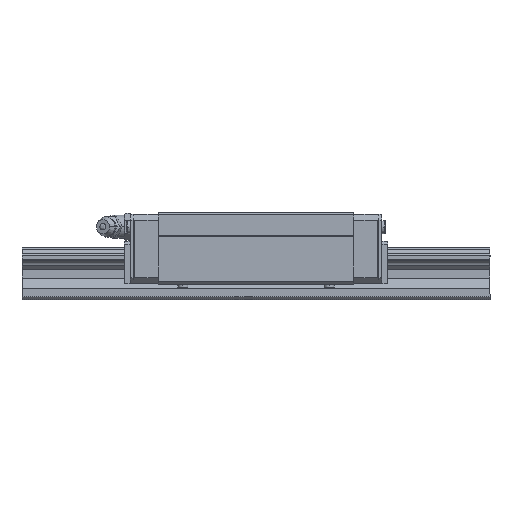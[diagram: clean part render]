
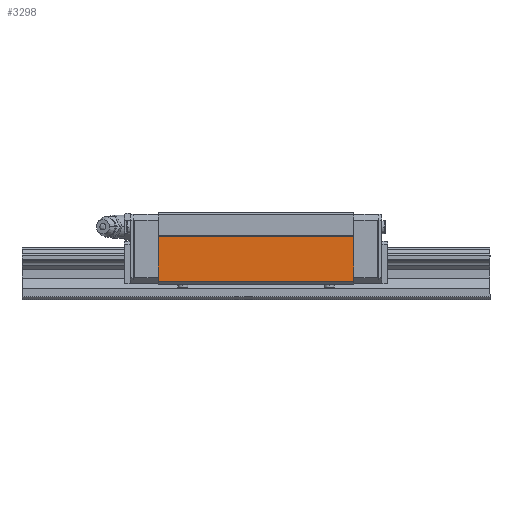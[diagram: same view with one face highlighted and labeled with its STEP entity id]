
A CAD part, top view. The second image highlights one B-rep face of the part: STEP entity #3298.
In plain terms, the highlighted planar face has unit normal (0, 0, 1).
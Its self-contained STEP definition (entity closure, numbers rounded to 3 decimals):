
#593 = ORIENTED_EDGE ( 'NONE', *, *, #1215, .F. ) ;
#621 = VERTEX_POINT ( 'NONE', #2487 ) ;
#1174 = AXIS2_PLACEMENT_3D ( 'NONE', #4902, #6392, #4155 ) ;
#1215 = EDGE_CURVE ( 'NONE', #9760, #3979, #8719, .T. ) ;
#1225 = VECTOR ( 'NONE', #9005, 1000. ) ;
#1247 = EDGE_CURVE ( 'NONE', #9760, #621, #6720, .T. ) ;
#1444 = CARTESIAN_POINT ( 'NONE',  ( 26.6, 6.317, 21.7 ) ) ;
#2487 = CARTESIAN_POINT ( 'NONE',  ( 26.6, 21.7, 21.7 ) ) ;
#3298 = ADVANCED_FACE ( 'NONE', ( #5117 ), #8657, .T. ) ;
#3631 = DIRECTION ( 'NONE',  ( 1., 0., 0. ) ) ;
#3979 = VERTEX_POINT ( 'NONE', #4122 ) ;
#4122 = CARTESIAN_POINT ( 'NONE',  ( 93.4, 6.317, 21.7 ) ) ;
#4155 = DIRECTION ( 'NONE',  ( 1., 0., 0. ) ) ;
#4260 = ORIENTED_EDGE ( 'NONE', *, *, #9827, .T. ) ;
#4884 = ORIENTED_EDGE ( 'NONE', *, *, #8221, .T. ) ;
#4902 = CARTESIAN_POINT ( 'NONE',  ( 93.4, 21.7, 21.7 ) ) ;
#5117 = FACE_OUTER_BOUND ( 'NONE', #5184, .T. ) ;
#5184 = EDGE_LOOP ( 'NONE', ( #593, #7946, #4260, #4884 ) ) ;
#5206 = VERTEX_POINT ( 'NONE', #1444 ) ;
#5318 = CARTESIAN_POINT ( 'NONE',  ( 93.4, 6.317, 21.7 ) ) ;
#5414 = VECTOR ( 'NONE', #3631, 1000. ) ;
#5902 = VECTOR ( 'NONE', #6586, 1000. ) ;
#5916 = CARTESIAN_POINT ( 'NONE',  ( 26.6, 4., 21.7 ) ) ;
#5979 = CARTESIAN_POINT ( 'NONE',  ( 93.4, 21.7, 21.7 ) ) ;
#6392 = DIRECTION ( 'NONE',  ( 0., 0., 1. ) ) ;
#6491 = VECTOR ( 'NONE', #8682, 1000. ) ;
#6586 = DIRECTION ( 'NONE',  ( -1., 0., 0. ) ) ;
#6720 = LINE ( 'NONE', #8148, #5902 ) ;
#7403 = LINE ( 'NONE', #5318, #5414 ) ;
#7879 = CARTESIAN_POINT ( 'NONE',  ( 93.4, 4., 21.7 ) ) ;
#7946 = ORIENTED_EDGE ( 'NONE', *, *, #1247, .T. ) ;
#8148 = CARTESIAN_POINT ( 'NONE',  ( 93.4, 21.7, 21.7 ) ) ;
#8221 = EDGE_CURVE ( 'NONE', #5206, #3979, #7403, .T. ) ;
#8657 = PLANE ( 'NONE',  #1174 ) ;
#8682 = DIRECTION ( 'NONE',  ( 0., -1., 0. ) ) ;
#8719 = LINE ( 'NONE', #7879, #6491 ) ;
#8799 = LINE ( 'NONE', #5916, #1225 ) ;
#9005 = DIRECTION ( 'NONE',  ( 0., -1., 0. ) ) ;
#9760 = VERTEX_POINT ( 'NONE', #5979 ) ;
#9827 = EDGE_CURVE ( 'NONE', #621, #5206, #8799, .T. ) ;
